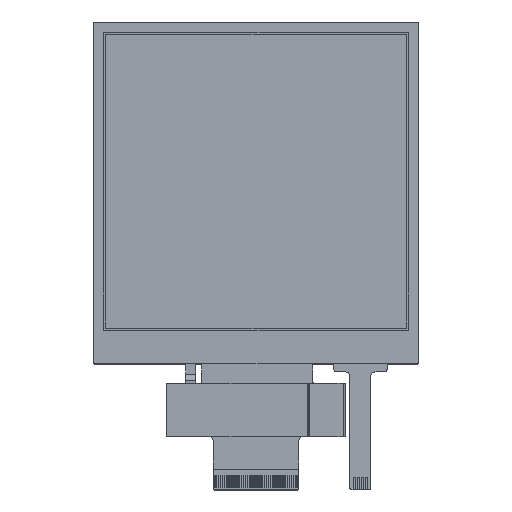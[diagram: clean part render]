
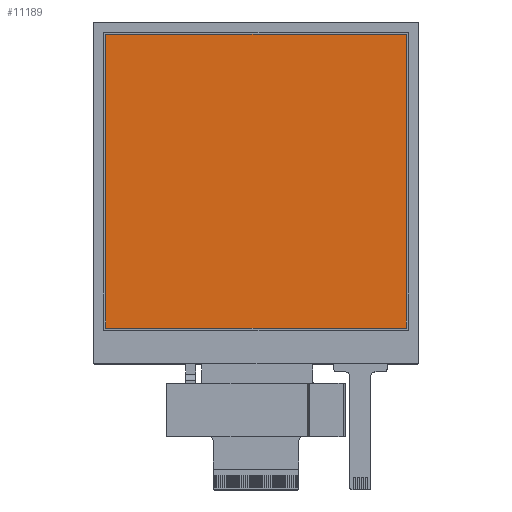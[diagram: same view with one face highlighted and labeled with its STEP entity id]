
A CAD part, top view. The second image highlights one B-rep face of the part: STEP entity #11189.
In plain terms, the highlighted planar face has unit normal (0, 0, 1).
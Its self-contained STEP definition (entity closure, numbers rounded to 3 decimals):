
#330 = CARTESIAN_POINT ( 'NONE',  ( -35.928, -2.95, 3.35 ) ) ;
#600 = VECTOR ( 'NONE', #12353, 1000. ) ;
#1070 = DIRECTION ( 'NONE',  ( -1., 0., 0. ) ) ;
#1635 = DIRECTION ( 'NONE',  ( -1., 0., 0. ) ) ;
#2406 = CARTESIAN_POINT ( 'NONE',  ( -35.928, -73.13, 3.35 ) ) ;
#2977 = EDGE_LOOP ( 'NONE', ( #11029, #7495, #13432, #8806 ) ) ;
#3104 = CARTESIAN_POINT ( 'NONE',  ( -35.928, -73.13, 3.35 ) ) ;
#3356 = FACE_OUTER_BOUND ( 'NONE', #2977, .T. ) ;
#4666 = EDGE_CURVE ( 'NONE', #8433, #12593, #12031, .T. ) ;
#4717 = EDGE_CURVE ( 'NONE', #10996, #13814, #9580, .T. ) ;
#4922 = EDGE_CURVE ( 'NONE', #13814, #8433, #12246, .T. ) ;
#5384 = CARTESIAN_POINT ( 'NONE',  ( 35.932, -2.95, 3.35 ) ) ;
#6491 = LINE ( 'NONE', #5384, #600 ) ;
#6718 = DIRECTION ( 'NONE',  ( 0., 0., -1. ) ) ;
#7243 = CARTESIAN_POINT ( 'NONE',  ( 35.932, -2.95, 3.35 ) ) ;
#7424 = CARTESIAN_POINT ( 'NONE',  ( -35.928, -2.95, 3.35 ) ) ;
#7495 = ORIENTED_EDGE ( 'NONE', *, *, #4666, .T. ) ;
#7676 = PLANE ( 'NONE',  #12373 ) ;
#8036 = VECTOR ( 'NONE', #13504, 1000. ) ;
#8433 = VERTEX_POINT ( 'NONE', #2406 ) ;
#8542 = DIRECTION ( 'NONE',  ( 1., 0., 0. ) ) ;
#8806 = ORIENTED_EDGE ( 'NONE', *, *, #4717, .T. ) ;
#8955 = VECTOR ( 'NONE', #8542, 1000. ) ;
#9580 = LINE ( 'NONE', #7424, #14679 ) ;
#9912 = EDGE_CURVE ( 'NONE', #12593, #10996, #6491, .T. ) ;
#10996 = VERTEX_POINT ( 'NONE', #7243 ) ;
#11029 = ORIENTED_EDGE ( 'NONE', *, *, #4922, .T. ) ;
#11189 = ADVANCED_FACE ( 'NONE', ( #3356 ), #7676, .F. ) ;
#12031 = LINE ( 'NONE', #13129, #8955 ) ;
#12246 = LINE ( 'NONE', #3104, #8036 ) ;
#12353 = DIRECTION ( 'NONE',  ( 0., 1., 0. ) ) ;
#12373 = AXIS2_PLACEMENT_3D ( 'NONE', #12430, #6718, #1070 ) ;
#12430 = CARTESIAN_POINT ( 'NONE',  ( 0., 0., 3.35 ) ) ;
#12572 = CARTESIAN_POINT ( 'NONE',  ( 35.932, -73.13, 3.35 ) ) ;
#12593 = VERTEX_POINT ( 'NONE', #12572 ) ;
#13129 = CARTESIAN_POINT ( 'NONE',  ( 35.932, -73.13, 3.35 ) ) ;
#13432 = ORIENTED_EDGE ( 'NONE', *, *, #9912, .T. ) ;
#13504 = DIRECTION ( 'NONE',  ( 0., -1., 0. ) ) ;
#13814 = VERTEX_POINT ( 'NONE', #330 ) ;
#14679 = VECTOR ( 'NONE', #1635, 1000. ) ;
